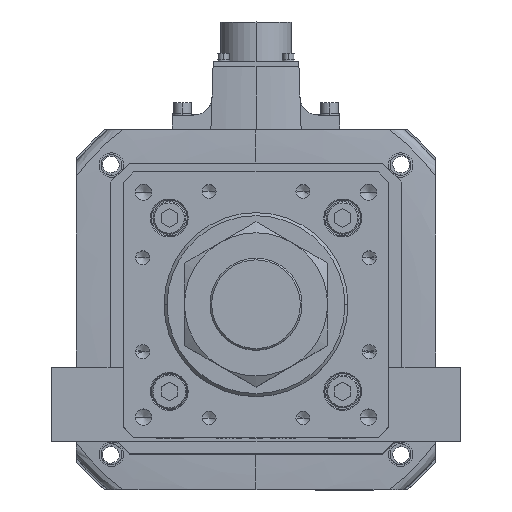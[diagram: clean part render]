
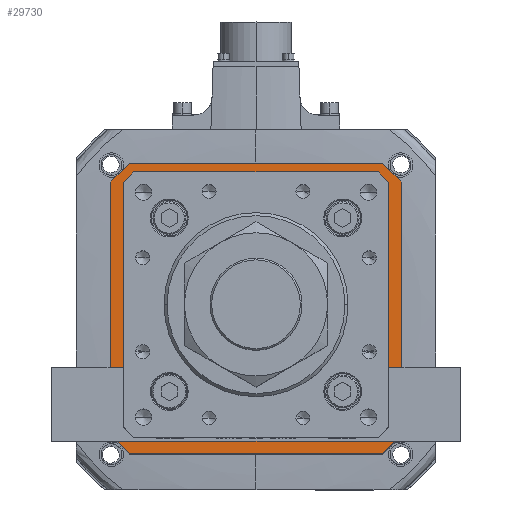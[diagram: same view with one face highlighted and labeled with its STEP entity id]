
A CAD part, top view. The second image highlights one B-rep face of the part: STEP entity #29730.
In plain terms, the highlighted planar face has unit normal (0, 0, 1).
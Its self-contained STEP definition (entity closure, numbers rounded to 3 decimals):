
#77 = CARTESIAN_POINT ( 'NONE',  ( 71., 62., -142. ) ) ;
#924 = EDGE_LOOP ( 'NONE', ( #28059, #14291, #22500, #30106, #26974, #48007, #19633, #47346 ) ) ;
#1141 = CARTESIAN_POINT ( 'NONE',  ( 63., 58.793, -142. ) ) ;
#1338 = EDGE_CURVE ( 'NONE', #17739, #29369, #1465, .T. ) ;
#1465 = LINE ( 'NONE', #55608, #4176 ) ;
#2095 = CARTESIAN_POINT ( 'NONE',  ( -71., -62., -142. ) ) ;
#2402 = EDGE_LOOP ( 'NONE', ( #43724, #19555, #19562, #20632, #4441, #34812, #31450, #49026 ) ) ;
#2613 = CARTESIAN_POINT ( 'NONE',  ( 63., 0., -142. ) ) ;
#2754 = CARTESIAN_POINT ( 'NONE',  ( 71., -62., -142. ) ) ;
#4176 = VECTOR ( 'NONE', #47151, 1000. ) ;
#4441 = ORIENTED_EDGE ( 'NONE', *, *, #22942, .F. ) ;
#4582 = EDGE_CURVE ( 'NONE', #33743, #53802, #28737, .T. ) ;
#5290 = FACE_BOUND ( 'NONE', #924, .T. ) ;
#5585 = EDGE_CURVE ( 'NONE', #33181, #14397, #17109, .T. ) ;
#5688 = LINE ( 'NONE', #19302, #9040 ) ;
#7701 = LINE ( 'NONE', #55490, #17837 ) ;
#8105 = LINE ( 'NONE', #22953, #10107 ) ;
#8400 = DIRECTION ( 'NONE',  ( 0.707, -0.707, 0. ) ) ;
#8453 = CARTESIAN_POINT ( 'NONE',  ( -62., -71., -142. ) ) ;
#8561 = EDGE_CURVE ( 'NONE', #30144, #25371, #55927, .T. ) ;
#9040 = VECTOR ( 'NONE', #27790, 1000. ) ;
#9469 = CARTESIAN_POINT ( 'NONE',  ( -63., -58.793, -142. ) ) ;
#9913 = VERTEX_POINT ( 'NONE', #9469 ) ;
#10107 = VECTOR ( 'NONE', #35952, 1000. ) ;
#10258 = CARTESIAN_POINT ( 'NONE',  ( -63., 58.793, -142. ) ) ;
#10350 = DIRECTION ( 'NONE',  ( 0.707, 0.707, 0. ) ) ;
#10922 = VERTEX_POINT ( 'NONE', #2095 ) ;
#11453 = LINE ( 'NONE', #15967, #41828 ) ;
#12066 = LINE ( 'NONE', #55566, #43156 ) ;
#12176 = VECTOR ( 'NONE', #38847, 1000. ) ;
#13320 = EDGE_CURVE ( 'NONE', #16386, #10922, #5688, .T. ) ;
#13965 = VERTEX_POINT ( 'NONE', #25802 ) ;
#14291 = ORIENTED_EDGE ( 'NONE', *, *, #8561, .T. ) ;
#14397 = VERTEX_POINT ( 'NONE', #50837 ) ;
#15696 = CARTESIAN_POINT ( 'NONE',  ( 63., -58.793, -142. ) ) ;
#15967 = CARTESIAN_POINT ( 'NONE',  ( 71., 62., -142. ) ) ;
#16386 = VERTEX_POINT ( 'NONE', #8453 ) ;
#16816 = AXIS2_PLACEMENT_3D ( 'NONE', #47363, #43430, #17564 ) ;
#16852 = DIRECTION ( 'NONE',  ( -0.707, 0.707, 0. ) ) ;
#17109 = LINE ( 'NONE', #29143, #45481 ) ;
#17564 = DIRECTION ( 'NONE',  ( 1., 0., 0. ) ) ;
#17728 = EDGE_CURVE ( 'NONE', #44327, #17739, #11453, .T. ) ;
#17739 = VERTEX_POINT ( 'NONE', #2754 ) ;
#17779 = VECTOR ( 'NONE', #25277, 1000. ) ;
#17837 = VECTOR ( 'NONE', #16852, 1000. ) ;
#18109 = CARTESIAN_POINT ( 'NONE',  ( -71., 62., -142. ) ) ;
#19302 = CARTESIAN_POINT ( 'NONE',  ( -62., -71., -142. ) ) ;
#19555 = ORIENTED_EDGE ( 'NONE', *, *, #4582, .F. ) ;
#19562 = ORIENTED_EDGE ( 'NONE', *, *, #21134, .F. ) ;
#19633 = ORIENTED_EDGE ( 'NONE', *, *, #5585, .T. ) ;
#20632 = ORIENTED_EDGE ( 'NONE', *, *, #13320, .F. ) ;
#21134 = EDGE_CURVE ( 'NONE', #10922, #33743, #29233, .T. ) ;
#21135 = CARTESIAN_POINT ( 'NONE',  ( -60.896, 60.896, -142. ) ) ;
#21760 = PLANE ( 'NONE',  #16816 ) ;
#22266 = VERTEX_POINT ( 'NONE', #10258 ) ;
#22495 = VECTOR ( 'NONE', #8400, 1000. ) ;
#22500 = ORIENTED_EDGE ( 'NONE', *, *, #55086, .T. ) ;
#22942 = EDGE_CURVE ( 'NONE', #29369, #16386, #8105, .T. ) ;
#22953 = CARTESIAN_POINT ( 'NONE',  ( 62., -71., -142. ) ) ;
#23173 = LINE ( 'NONE', #25028, #25221 ) ;
#23296 = EDGE_CURVE ( 'NONE', #9913, #22266, #25729, .T. ) ;
#23676 = CARTESIAN_POINT ( 'NONE',  ( 62., -71., -142. ) ) ;
#24420 = EDGE_CURVE ( 'NONE', #53802, #13965, #12066, .T. ) ;
#25028 = CARTESIAN_POINT ( 'NONE',  ( 60.896, 60.896, -142. ) ) ;
#25221 = VECTOR ( 'NONE', #33909, 1000. ) ;
#25277 = DIRECTION ( 'NONE',  ( -1., 0., 0. ) ) ;
#25371 = VERTEX_POINT ( 'NONE', #41356 ) ;
#25729 = LINE ( 'NONE', #42345, #39909 ) ;
#25802 = CARTESIAN_POINT ( 'NONE',  ( 62., 71., -142. ) ) ;
#26974 = ORIENTED_EDGE ( 'NONE', *, *, #23296, .T. ) ;
#27790 = DIRECTION ( 'NONE',  ( -0.707, 0.707, 0. ) ) ;
#28059 = ORIENTED_EDGE ( 'NONE', *, *, #41951, .T. ) ;
#28595 = EDGE_CURVE ( 'NONE', #22266, #33181, #47941, .T. ) ;
#28737 = LINE ( 'NONE', #36210, #50326 ) ;
#29143 = CARTESIAN_POINT ( 'NONE',  ( 0., 63., -142. ) ) ;
#29221 = DIRECTION ( 'NONE',  ( 1., 0., 0. ) ) ;
#29233 = LINE ( 'NONE', #18109, #50182 ) ;
#29369 = VERTEX_POINT ( 'NONE', #23676 ) ;
#29730 = ADVANCED_FACE ( 'NONE', ( #5290, #30293 ), #21760, .T. ) ;
#30106 = ORIENTED_EDGE ( 'NONE', *, *, #54713, .T. ) ;
#30144 = VERTEX_POINT ( 'NONE', #15696 ) ;
#30293 = FACE_OUTER_BOUND ( 'NONE', #2402, .T. ) ;
#31450 = ORIENTED_EDGE ( 'NONE', *, *, #17728, .F. ) ;
#31663 = CARTESIAN_POINT ( 'NONE',  ( -71., 62., -142. ) ) ;
#32890 = CARTESIAN_POINT ( 'NONE',  ( 71., 62., -142. ) ) ;
#33086 = VECTOR ( 'NONE', #49829, 1000. ) ;
#33181 = VERTEX_POINT ( 'NONE', #46182 ) ;
#33743 = VERTEX_POINT ( 'NONE', #31663 ) ;
#33909 = DIRECTION ( 'NONE',  ( 0.707, -0.707, 0. ) ) ;
#34812 = ORIENTED_EDGE ( 'NONE', *, *, #1338, .F. ) ;
#35952 = DIRECTION ( 'NONE',  ( -1., 0., 0. ) ) ;
#36008 = LINE ( 'NONE', #77, #22495 ) ;
#36210 = CARTESIAN_POINT ( 'NONE',  ( -62., 71., -142. ) ) ;
#37176 = VECTOR ( 'NONE', #40754, 1000. ) ;
#38207 = DIRECTION ( 'NONE',  ( 0., 1., 0. ) ) ;
#38824 = VERTEX_POINT ( 'NONE', #43147 ) ;
#38847 = DIRECTION ( 'NONE',  ( 0.707, 0.707, 0. ) ) ;
#39909 = VECTOR ( 'NONE', #38207, 1000. ) ;
#40754 = DIRECTION ( 'NONE',  ( 0., -1., 0. ) ) ;
#41356 = CARTESIAN_POINT ( 'NONE',  ( 58.793, -63., -142. ) ) ;
#41828 = VECTOR ( 'NONE', #50496, 1000. ) ;
#41951 = EDGE_CURVE ( 'NONE', #53353, #30144, #47254, .T. ) ;
#42333 = DIRECTION ( 'NONE',  ( 1., 0., 0. ) ) ;
#42345 = CARTESIAN_POINT ( 'NONE',  ( -63., 0., -142. ) ) ;
#42794 = EDGE_CURVE ( 'NONE', #13965, #44327, #36008, .T. ) ;
#43147 = CARTESIAN_POINT ( 'NONE',  ( -58.793, -63., -142. ) ) ;
#43156 = VECTOR ( 'NONE', #29221, 1000. ) ;
#43430 = DIRECTION ( 'NONE',  ( 0., 0., 1. ) ) ;
#43724 = ORIENTED_EDGE ( 'NONE', *, *, #24420, .F. ) ;
#44327 = VERTEX_POINT ( 'NONE', #32890 ) ;
#45462 = CARTESIAN_POINT ( 'NONE',  ( 60.896, -60.896, -142. ) ) ;
#45481 = VECTOR ( 'NONE', #42333, 1000. ) ;
#46182 = CARTESIAN_POINT ( 'NONE',  ( -58.793, 63., -142. ) ) ;
#47151 = DIRECTION ( 'NONE',  ( -0.707, -0.707, 0. ) ) ;
#47254 = LINE ( 'NONE', #2613, #37176 ) ;
#47346 = ORIENTED_EDGE ( 'NONE', *, *, #55454, .T. ) ;
#47363 = CARTESIAN_POINT ( 'NONE',  ( 0., 0., -142. ) ) ;
#47941 = LINE ( 'NONE', #21135, #12176 ) ;
#48007 = ORIENTED_EDGE ( 'NONE', *, *, #28595, .T. ) ;
#49026 = ORIENTED_EDGE ( 'NONE', *, *, #42794, .F. ) ;
#49829 = DIRECTION ( 'NONE',  ( -0.707, -0.707, 0. ) ) ;
#50182 = VECTOR ( 'NONE', #53945, 1000. ) ;
#50326 = VECTOR ( 'NONE', #10350, 1000. ) ;
#50496 = DIRECTION ( 'NONE',  ( 0., -1., 0. ) ) ;
#50837 = CARTESIAN_POINT ( 'NONE',  ( 58.793, 63., -142. ) ) ;
#51141 = CARTESIAN_POINT ( 'NONE',  ( 0., -63., -142. ) ) ;
#53353 = VERTEX_POINT ( 'NONE', #1141 ) ;
#53570 = LINE ( 'NONE', #51141, #17779 ) ;
#53726 = CARTESIAN_POINT ( 'NONE',  ( -62., 71., -142. ) ) ;
#53802 = VERTEX_POINT ( 'NONE', #53726 ) ;
#53945 = DIRECTION ( 'NONE',  ( 0., 1., 0. ) ) ;
#54713 = EDGE_CURVE ( 'NONE', #38824, #9913, #7701, .T. ) ;
#55086 = EDGE_CURVE ( 'NONE', #25371, #38824, #53570, .T. ) ;
#55454 = EDGE_CURVE ( 'NONE', #14397, #53353, #23173, .T. ) ;
#55490 = CARTESIAN_POINT ( 'NONE',  ( -60.896, -60.896, -142. ) ) ;
#55566 = CARTESIAN_POINT ( 'NONE',  ( 62., 71., -142. ) ) ;
#55608 = CARTESIAN_POINT ( 'NONE',  ( 71., -62., -142. ) ) ;
#55927 = LINE ( 'NONE', #45462, #33086 ) ;
